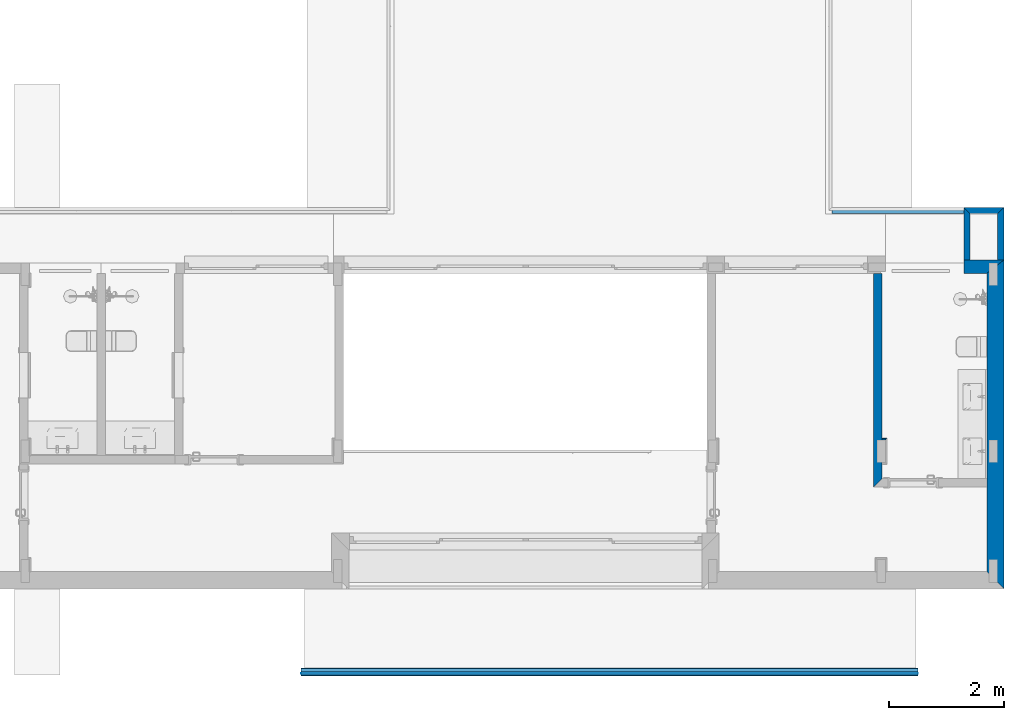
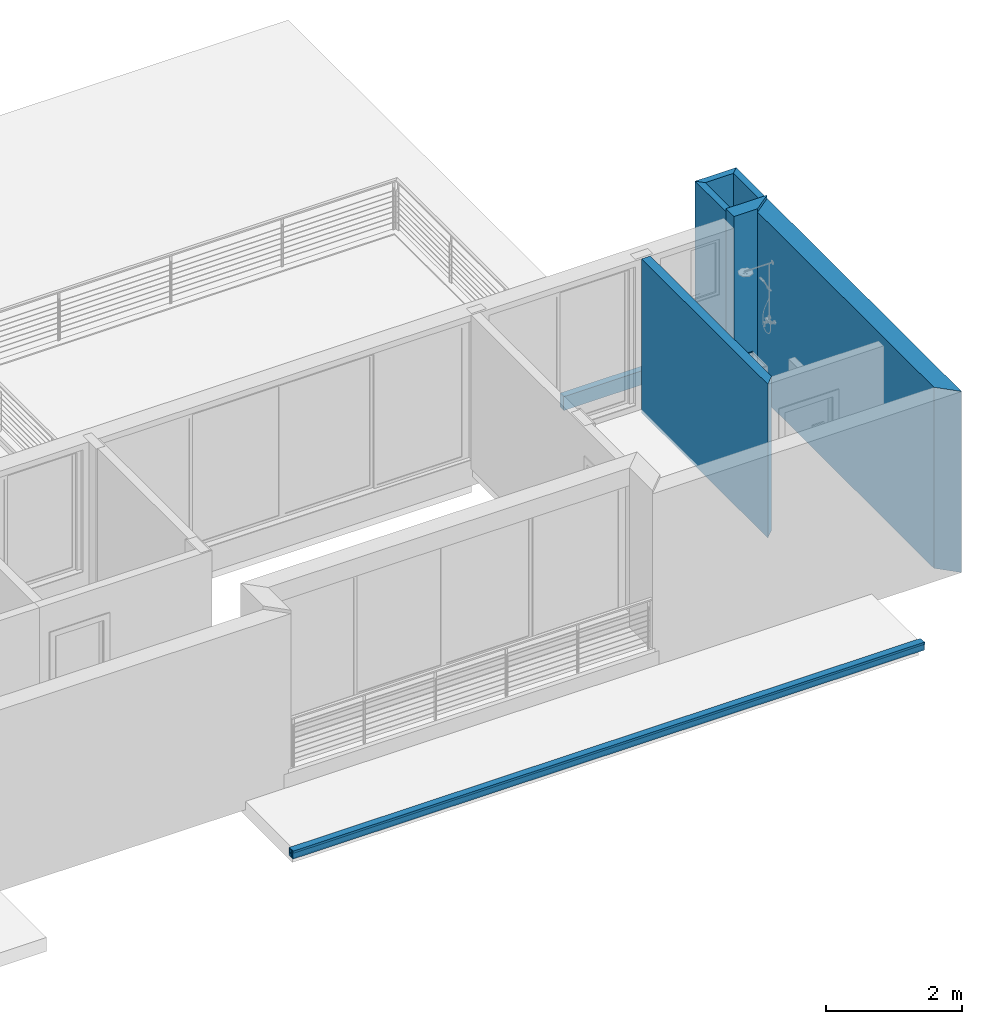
# One storey, part 14 of 24: 8 walls, 6 building element parts, 1 element without a shape of its own.
"""IFC2X3 building model written with IfcOpenShell, lengths in millimetres."""

from ifc_helpers import new_model, entity, si_unit, converted_unit, money_unit, direction, frame, origin_with_axes, place, context, subcontext, project, spatial, polyline, outline, extrude, material, layer, layer_set, layer_usage, type_object, element, aggregate, save


model = new_model("IFC2X3")

# Units and contexts
model_context = context("Model", 3, precision=1e-05, world=origin_with_axes(), true_north=direction((0.0, 1.0)))
body_context = subcontext(model_context, "Body", "Model", "MODEL_VIEW")
ifc_project = project(units=[si_unit("LENGTHUNIT", "METRE", prefix="MILLI"), si_unit("AREAUNIT", "SQUARE_METRE"), si_unit("VOLUMEUNIT", "CUBIC_METRE"), converted_unit("PLANEANGLEUNIT", "DEGREE", entity("IfcPlaneAngleMeasure", 0.0174532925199), si_unit("PLANEANGLEUNIT", "RADIAN"), dimensions=[0, 0, 0, 0, 0, 0, 0]), si_unit("SOLIDANGLEUNIT", "STERADIAN"), money_unit("USD"), converted_unit("TIMEUNIT", "Year", entity("IfcTimeMeasure", 31556926.0), si_unit("TIMEUNIT", "SECOND"), dimensions=[0, 0, 0, 0, 0, 0, 0]), si_unit("MASSUNIT", "GRAM"), si_unit("THERMODYNAMICTEMPERATUREUNIT", "DEGREE_CELSIUS"), si_unit("LUMINOUSINTENSITYUNIT", "LUMEN")], contexts=[model_context])

# Site, building, storey
site_placement = place(None, origin_with_axes())
site = spatial("IfcSite", under=ifc_project, at=site_placement, Name="Grove Residential", CompositionType="ELEMENT")
building_placement = place(site_placement, origin_with_axes())
building = spatial("IfcBuilding", under=site, at=building_placement, Name="Building", CompositionType="ELEMENT")
storey_placement = place(building_placement, frame((0.0, 0.0, 3740.0), z_axis=(0.0, 0.0, 1.0), x_axis=(1.0, 0.0, 0.0)))
storey = spatial("IfcBuildingStorey", under=building, at=storey_placement, Name="First Floor", CompositionType="ELEMENT", Elevation=3740.0)

# Walls
ifc_material_1 = material(Name="Insulation - Plastic Soft")
ifc_layer_1 = layer(ifc_material_1, 50.0, ventilated="UNKNOWN")
ifc_material_2 = material(Name="Concrete Block")
ifc_layer_2 = layer(ifc_material_2, 150.0, ventilated="UNKNOWN")
ifc_material_3 = material(Name="Air Space - Fixing Zone")
ifc_layer_3 = layer(ifc_material_3, 10.0, ventilated="UNKNOWN")
ifc_material_4 = material(Name="Gypsum Plasterboard")
ifc_layer_4 = layer(ifc_material_4, 12.5, ventilated="UNKNOWN")
ifc_layer_5 = layer(ifc_material_4, 12.5, ventilated="UNKNOWN")
ifc_layer_set_1 = layer_set([ifc_layer_1, ifc_layer_2, ifc_layer_3, ifc_layer_4, ifc_layer_5], Name="EWF - 004")
ifc_layer_usage_1 = layer_usage(ifc_layer_set_1, "AXIS2", "POSITIVE", -50.0)
wall_type_1 = type_object("IfcWallType", Name="EWF - 004 235", PredefinedType="NOTDEFINED")
wall_1_placement = place(storey_placement, frame((12135.0, 7035.0, 0.0), z_axis=(0.0, 0.0, 1.0), x_axis=(-1.0, 0.0, 0.0)))
element("IfcWallStandardCase", 1, at=wall_1_placement, inside=storey, type_object=wall_type_1, material=ifc_layer_usage_1, Name="SW - 004", context=body_context, shape_type="SweptSolid", body=[
    extrude(outline(polyline([(-115.0, -50.0), (585.0, -50.0), (585.0, 185.0), (185.0, 185.0), (-115.0, -50.0)])), origin_with_axes(), (0.0, 0.0, 1.0), 2920.0),
])
ifc_material_5 = material(Name="Wall Tiles")
ifc_layer_6 = layer(ifc_material_5, 12.5, ventilated="UNKNOWN")
ifc_material_6 = material(Name="Gypsum Plasterboard - Waterproof")
ifc_layer_7 = layer(ifc_material_6, 12.5, ventilated="UNKNOWN")
ifc_material_7 = material(Name="Air Space - Frame")
ifc_layer_8 = layer(ifc_material_7, 50.0, ventilated="UNKNOWN")
ifc_material_8 = material(Name="Insulation - Mineral Soft")
ifc_layer_9 = layer(ifc_material_8, 50.0, ventilated="UNKNOWN")
ifc_layer_10 = layer(ifc_material_4, 12.5, ventilated="UNKNOWN")
ifc_layer_11 = layer(ifc_material_4, 12.5, ventilated="UNKNOWN")
ifc_layer_set_2 = layer_set([ifc_layer_6, ifc_layer_7, ifc_layer_8, ifc_layer_9, ifc_layer_10, ifc_layer_11], Name="IWF-002")
ifc_layer_usage_2 = layer_usage(ifc_layer_set_2, "AXIS2", "NEGATIVE", 150.0)
wall_type_2 = type_object("IfcWallType", Name="IWF-002 150", PredefinedType="NOTDEFINED")
wall_2_placement = place(storey_placement, frame((9975.0, 7035.0, -60.0), z_axis=(0.0, 0.0, 1.0), x_axis=(0.0, -1.0, 0.0)))
element("IfcWallStandardCase", 2, at=wall_2_placement, inside=storey, type_object=wall_type_2, material=ifc_layer_usage_2, Name="SW - 001", context=body_context, shape_type="SweptSolid", body=[
    extrude(outline(polyline([(185.0, 0.0), (3910.00003278, 0.0), (3760.00003278, 150.0), (185.0, 150.0), (185.0, 0.0)])), origin_with_axes(), (0.0, 0.0, 1.0), 2770.0),
])
ifc_material_9 = material(Name="Timber - External Cladding")
ifc_layer_12 = layer(ifc_material_9, 40.0, ventilated="UNKNOWN")
ifc_layer_13 = layer(ifc_material_3, 25.0, ventilated="UNKNOWN")
ifc_layer_14 = layer(ifc_material_1, 50.0, ventilated="UNKNOWN")
ifc_layer_15 = layer(ifc_material_2, 150.0, ventilated="UNKNOWN")
ifc_layer_16 = layer(ifc_material_3, 10.0, ventilated="UNKNOWN")
ifc_layer_17 = layer(ifc_material_4, 12.5, ventilated="UNKNOWN")
ifc_layer_18 = layer(ifc_material_4, 12.5, ventilated="UNKNOWN")
ifc_layer_set_3 = layer_set([ifc_layer_12, ifc_layer_13, ifc_layer_14, ifc_layer_15, ifc_layer_16, ifc_layer_17, ifc_layer_18], Name="EWF - 002")
ifc_layer_usage_3 = layer_usage(ifc_layer_set_3, "AXIS2", "POSITIVE", -115.0)
wall_type_3 = type_object("IfcWallType", Name="EWF - 002 300", PredefinedType="NOTDEFINED")
wall_3_placement = place(storey_placement, frame((12135.0, 1464.99992309, -400.0), z_axis=(0.0, 0.0, 1.0), x_axis=(0.0, 1.0, 0.0)))
element("IfcWallStandardCase", 3, at=wall_3_placement, inside=storey, type_object=wall_type_3, material=ifc_layer_usage_3, Name="SW - 003", context=body_context, shape_type="SweptSolid", body=[
    extrude(outline(polyline([(-115.0, -115.0), (5620.00007691, -115.0), (5385.00007691, 185.0), (185.0, 185.0), (-115.0, -115.0)])), origin_with_axes(), (0.0, 0.0, 1.0), 3260.0),
])
ifc_layer_19 = layer(ifc_material_9, 40.0, ventilated="UNKNOWN")
ifc_layer_20 = layer(ifc_material_3, 70.0, ventilated="UNKNOWN")
ifc_layer_set_4 = layer_set([ifc_layer_19, ifc_layer_20], Name="EWF - 007")
ifc_layer_usage_4 = layer_usage(ifc_layer_set_4, "AXIS2", "POSITIVE", -115.0)
wall_type_4 = type_object("IfcWallType", Name="EWF - 007 110", PredefinedType="NOTDEFINED")
wall_4_placement = place(storey_placement, frame((12135.0, 7035.0, -400.0), z_axis=(0.0, 0.0, 1.0), x_axis=(0.0, 1.0, 0.0)))
element("IfcWallStandardCase", 4, at=wall_4_placement, inside=storey, type_object=wall_type_4, material=ifc_layer_usage_4, Name="SW - 001", context=body_context, shape_type="SweptSolid", body=[
    extrude(outline(polyline([(50.0, -115.0), (965.0, -115.0), (855.0, -5.0), (50.0, -5.0), (50.0, -115.0)])), origin_with_axes(), (0.0, 0.0, 1.0), 3260.0),
])
ifc_layer_usage_5 = layer_usage(ifc_layer_set_4, "AXIS2", "POSITIVE", -115.0)
wall_5_placement = place(storey_placement, frame((12135.0, 7885.0, -400.0), z_axis=(0.0, 0.0, 1.0), x_axis=(-1.0, 0.0, 0.0)))
element("IfcWallStandardCase", 5, at=wall_5_placement, inside=storey, type_object=wall_type_4, material=ifc_layer_usage_5, Name="SW - 002", context=body_context, shape_type="SweptSolid", body=[
    extrude(outline(polyline([(-115.0, -115.0), (585.0, -115.0), (475.0, -5.0), (-5.0, -5.0), (-115.0, -115.0)])), origin_with_axes(), (0.0, 0.0, 1.0), 3260.0),
])
ifc_layer_usage_6 = layer_usage(ifc_layer_set_4, "AXIS2", "POSITIVE", -115.0)
wall_6_placement = place(storey_placement, frame((11665.0, 7885.0, -150.0), z_axis=(0.0, 0.0, 1.0), x_axis=(0.0, -1.0, 0.0)))
element("IfcWallStandardCase", 6, at=wall_6_placement, inside=storey, type_object=wall_type_4, material=ifc_layer_usage_6, Name="SW - 003", context=body_context, shape_type="SweptSolid", body=[
    extrude(outline(polyline([(-115.0, -115.0), (800.0, -115.0), (800.0, -5.0), (-5.0, -5.0), (-115.0, -115.0)])), origin_with_axes(), (0.0, 0.0, 1.0), 3010.0),
])
ifc_layer_usage_7 = layer_usage(ifc_layer_set_4, "AXIS2", "NEGATIVE", 115.0)
wall_7_placement = place(storey_placement, frame((9250.0, 7885.0, -400.0), z_axis=(0.0, 0.0, 1.0), x_axis=(1.0, 0.0, 0.0)))
element("IfcWallStandardCase", 7, at=wall_7_placement, inside=storey, type_object=wall_type_4, material=ifc_layer_usage_7, Name="SW - 002", context=body_context, shape_type="SweptSolid", body=[
    extrude(outline(polyline([(0.0, 5.0), (2415.0, 5.0), (2415.0, 115.0), (0.0, 115.0), (0.0, 5.0)])), origin_with_axes(), (0.0, 0.0, 1.0), 250.0),
])
ifc_layer_21 = layer(ifc_material_5, 12.5, ventilated="UNKNOWN")
ifc_layer_22 = layer(ifc_material_4, 12.5, ventilated="UNKNOWN")
ifc_layer_set_5 = layer_set([ifc_layer_21, ifc_layer_22], Name="IF-002")
ifc_layer_usage_8 = layer_usage(ifc_layer_set_5, "AXIS2", "POSITIVE", -25.0)
wall_type_5 = type_object("IfcWallType", Name="IF-002 25", PredefinedType="NOTDEFINED")
wall_8_placement = place(storey_placement, frame((10184.9999055, 3949.99996722, -60.0), z_axis=(0.0, 0.0, 1.0), x_axis=(-1.0, 0.0, 0.0)))
element("IfcWallStandardCase", 8, at=wall_8_placement, inside=storey, type_object=wall_type_5, material=ifc_layer_usage_8, Name="SW - 008", context=body_context, shape_type="SweptSolid", body=[
    extrude(outline(polyline([(-25.0, -25.0), (59.999905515, -25.0), (59.999905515, 0.0), (0.0, 0.0), (-25.0, -25.0)])), origin_with_axes(), (0.0, 0.0, 1.0), 2770.0),
])

# Wall, building element parts
wall_type_6 = type_object("IfcWallType", Name="Detail 01 135 x 150", PredefinedType="NOTDEFINED")
wall_9_placement = place(storey_placement, frame((0.0, -150.0, -360.0), z_axis=(0.0, 0.0, 1.0), x_axis=(1.0, 0.0, 0.0)))
wall_9 = element("IfcWall", 9, at=wall_9_placement, inside=storey, type_object=wall_type_6, Name="SW - 004")
ifc_material_10 = material(Name="Titanium Zinc")
building_element_part_1_placement = place(wall_9_placement, origin_with_axes())
building_element_part_1 = element("IfcBuildingElementPart", 10, at=building_element_part_1_placement, material=ifc_material_10, Name="Titanium Zinc", context=body_context, shape_type="SweptSolid", body=[
    extrude(outline(polyline([(-14.9136671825, 150.0), (-14.9136671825, 114.501184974), (-9.91366718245, 114.501184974), (-1.52515777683, 122.889694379), (-5.06069260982, 126.425226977), (-9.91366718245, 121.57225464), (-9.91366718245, 144.501184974), (115.0, 132.604645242), (115.086332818, 128.511777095), (120.086332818, 128.511777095), (120.086332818, 137.142857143), (-14.9136671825, 150.0)])), frame((0.0, 0.0, 0.0), z_axis=(1.0, 0.0, 0.0), x_axis=(0.0, 1.0, 0.0)), (0.0, 0.0, 1.0), 10750.0),
])
ifc_material_11 = material(Name="Membrane - Rainproof")
building_element_part_2_placement = place(wall_9_placement, origin_with_axes())
building_element_part_2 = element("IfcBuildingElementPart", 11, at=building_element_part_2_placement, material=ifc_material_11, Name="Membrane - Rainproof", context=body_context, shape_type="SweptSolid", body=[
    extrude(outline(polyline([(-9.91366740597, 144.501185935), (-9.91366740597, 128.511776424), (-1.96900024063e-07, 128.511776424), (-1.96900024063e-07, 133.511776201), (104.999999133, 123.511776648), (104.999999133, 50.0), (115.000000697, 50.0), (115.000000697, 132.604644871), (-9.91366740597, 144.501185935)])), frame((0.0, 0.0, 0.0), z_axis=(1.0, 0.0, 0.0), x_axis=(0.0, 1.0, 0.0)), (0.0, 0.0, 1.0), 10750.0),
])
building_element_part_3_placement = place(wall_9_placement, origin_with_axes())
building_element_part_3 = element("IfcBuildingElementPart", 12, at=building_element_part_3_placement, material=ifc_material_1, Name="Insulation - Plastic Soft", context=body_context, shape_type="SweptSolid", body=[
    extrude(outline(polyline([(65.0, 0.0), (115.0, 0.0), (115.0, 50.0), (65.0, 50.0), (65.0, 0.0)])), frame((0.0, 0.0, 0.0), z_axis=(1.0, 0.0, 0.0), x_axis=(0.0, 1.0, 0.0)), (0.0, 0.0, 1.0), 10750.0),
])
ifc_material_12 = material(Name="Air Space")
building_element_part_4_placement = place(wall_9_placement, origin_with_axes())
building_element_part_4 = element("IfcBuildingElementPart", 13, at=building_element_part_4_placement, material=ifc_material_12, Name="Air Space", context=body_context, shape_type="SweptSolid", body=[
    extrude(outline(polyline([(30.0, 0.0), (65.0, 0.0), (65.0, 127.321300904), (30.0, 130.654634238), (30.0, 0.0)])), frame((0.0, 0.0, 0.0), z_axis=(1.0, 0.0, 0.0), x_axis=(0.0, 1.0, 0.0)), (0.0, 0.0, 1.0), 10750.0),
])
ifc_material_13 = material(Name="Cement Board")
building_element_part_5_placement = place(wall_9_placement, origin_with_axes())
building_element_part_5 = element("IfcBuildingElementPart", 14, at=building_element_part_5_placement, material=ifc_material_13, Name="Cement Board", context=body_context, shape_type="SweptSolid", body=[
    extrude(outline(polyline([(20.0, 0.0), (30.0, 0.0), (30.0, 130.654634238), (20.0, 131.60701519), (20.0, 0.0)])), frame((0.0, 0.0, 0.0), z_axis=(1.0, 0.0, 0.0), x_axis=(0.0, 1.0, 0.0)), (0.0, 0.0, 1.0), 10750.0),
])
ifc_material_14 = material(Name="External Render")
building_element_part_6_placement = place(wall_9_placement, origin_with_axes())
building_element_part_6 = element("IfcBuildingElementPart", 15, at=building_element_part_6_placement, material=ifc_material_14, Name="External Render", context=body_context, shape_type="SweptSolid", body=[
    extrude(outline(polyline([(0.0, 0.0), (20.0, 0.0), (20.0, 131.60701519), (0.0, 133.511777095), (0.0, 0.0)])), frame((0.0, 0.0, 0.0), z_axis=(1.0, 0.0, 0.0), x_axis=(0.0, 1.0, 0.0)), (0.0, 0.0, 1.0), 10750.0),
])
aggregate(wall_9, [building_element_part_1, building_element_part_2, building_element_part_3, building_element_part_4, building_element_part_5, building_element_part_6])

save(model, "model.ifc")
